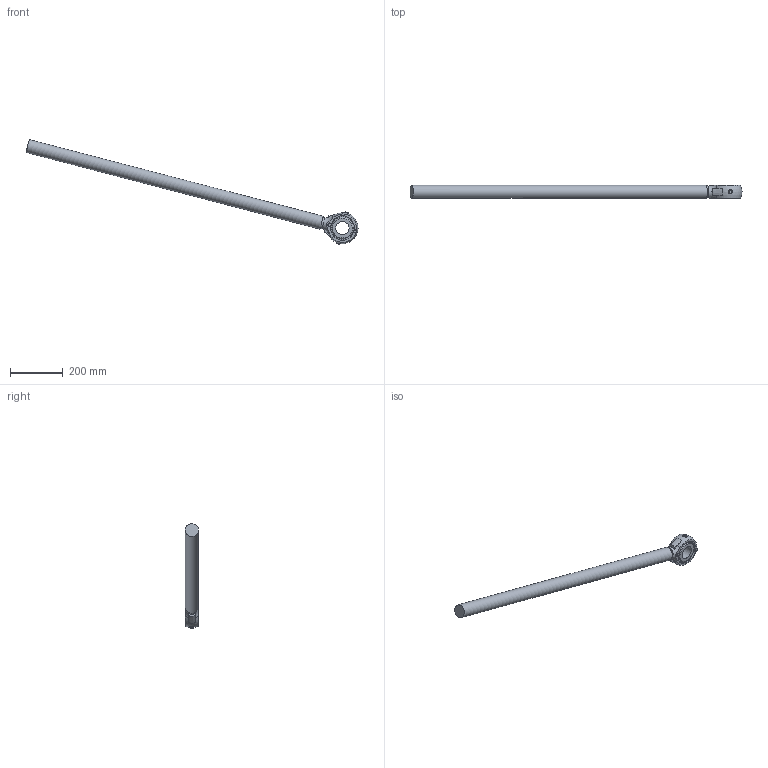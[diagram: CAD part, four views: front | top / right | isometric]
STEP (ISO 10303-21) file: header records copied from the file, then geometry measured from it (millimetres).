
FILE_DESCRIPTION (( 'STEP AP203' ), '1' );
FILE_NAME ('IRB6730S_All_OC_00_ROD_CAD.step', '2025-12-19T13:42:47', ( '' ), ( '' ), 'SwSTEP 2.0', 'SolidWorks 2024', '' );
FILE_SCHEMA (( 'CONFIG_CONTROL_DESIGN' ));
Length unit declared in the file: millimetre
Products named in the file (1): IRB6730S_All_OC_00_ROD_CAD
Bounding box: 1259.4 x 51.34 x 396.87 mm (x, y, z)
Volume: 2722130.4 mm3; surface area: 229366.4 mm2
Topology: 1 solids, 1 shells, 53 faces, 135 edges, 87 vertices
Faces by surface type: plane 31, cylinder 13, cone 6, torus 2, sphere 1
Full cylindrical faces by diameter (mm): 3 x1, 12 x4, 16 x2, 45 x1, 50 x2, 63 x1, 90.1 x1
Entity records: 1689 total; most frequent: CARTESIAN_POINT 456, DIRECTION 258, ORIENTED_EDGE 210, AXIS2_PLACEMENT_3D 121, EDGE_CURVE 105, EDGE_LOOP 80, VERTEX_POINT 75, FACE_OUTER_BOUND 68
